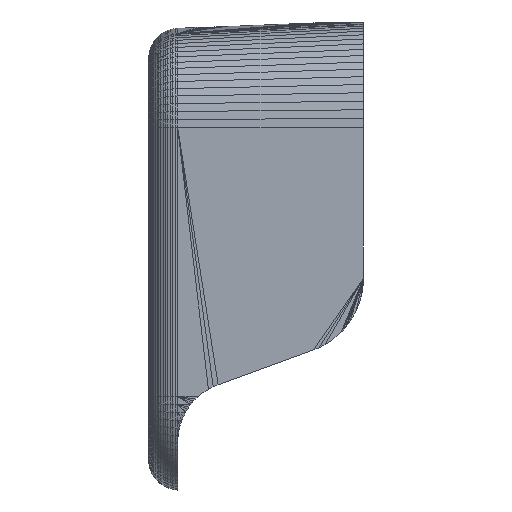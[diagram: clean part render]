
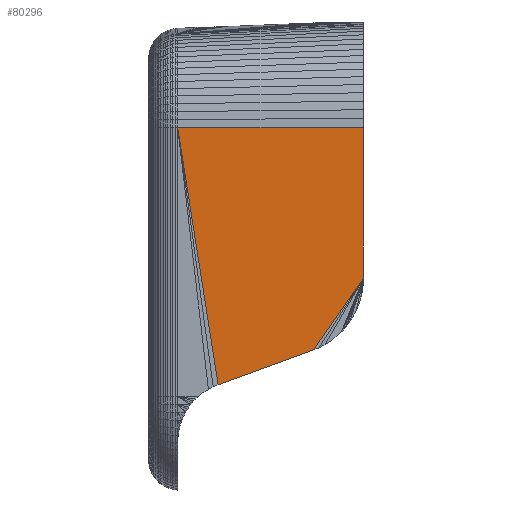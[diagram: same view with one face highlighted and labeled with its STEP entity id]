
A CAD part, front view. The second image highlights one B-rep face of the part: STEP entity #80296.
In plain terms, the highlighted planar face has unit normal (-0.052, -0.999, 0).
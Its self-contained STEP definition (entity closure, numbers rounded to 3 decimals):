
#316 = DIRECTION ( 'NONE',  ( -0.939, 0.049, -0.342 ) ) ;
#4162 = LINE ( 'NONE', #38374, #37072 ) ;
#7854 = ORIENTED_EDGE ( 'NONE', *, *, #99668, .F. ) ;
#9208 = EDGE_CURVE ( 'NONE', #12284, #105392, #103618, .T. ) ;
#9255 = ORIENTED_EDGE ( 'NONE', *, *, #9208, .T. ) ;
#12284 = VERTEX_POINT ( 'NONE', #16062 ) ;
#16062 = CARTESIAN_POINT ( 'NONE',  ( -49.08, -13.123, 6.015 ) ) ;
#17094 = DIRECTION ( 'NONE',  ( -0.052, -0.999, 0. ) ) ;
#17999 = VECTOR ( 'NONE', #49584, 1000. ) ;
#19276 = DIRECTION ( 'NONE',  ( -0.999, 0.052, 0. ) ) ;
#19384 = CARTESIAN_POINT ( 'NONE',  ( -49.08, -13.123, 6.015 ) ) ;
#20428 = CARTESIAN_POINT ( 'NONE',  ( -42.5, -13.467, 35.065 ) ) ;
#21928 = CARTESIAN_POINT ( 'NONE',  ( -42.5, -13.467, 35.065 ) ) ;
#25445 = VECTOR ( 'NONE', #85634, 1000. ) ;
#27529 = LINE ( 'NONE', #19384, #69891 ) ;
#32773 = EDGE_CURVE ( 'NONE', #55385, #67425, #64548, .T. ) ;
#35066 = DIRECTION ( 'NONE',  ( 0.999, -0.052, 0. ) ) ;
#37072 = VECTOR ( 'NONE', #83060, 1000. ) ;
#37802 = CARTESIAN_POINT ( 'NONE',  ( -61.436, -12.475, 1.518 ) ) ;
#38374 = CARTESIAN_POINT ( 'NONE',  ( -61.436, -12.475, 1.518 ) ) ;
#45893 = VECTOR ( 'NONE', #19276, 1000. ) ;
#49584 = DIRECTION ( 'NONE',  ( 0., 0., -1. ) ) ;
#50755 = ORIENTED_EDGE ( 'NONE', *, *, #72907, .F. ) ;
#53267 = EDGE_LOOP ( 'NONE', ( #65180, #58229, #7854, #9255, #50755 ) ) ;
#55385 = VERTEX_POINT ( 'NONE', #21928 ) ;
#58229 = ORIENTED_EDGE ( 'NONE', *, *, #61910, .F. ) ;
#61910 = EDGE_CURVE ( 'NONE', #103171, #67425, #4162, .T. ) ;
#64548 = LINE ( 'NONE', #20428, #45893 ) ;
#65180 = ORIENTED_EDGE ( 'NONE', *, *, #32773, .T. ) ;
#67425 = VERTEX_POINT ( 'NONE', #88130 ) ;
#68234 = CARTESIAN_POINT ( 'NONE',  ( -49.08, -13.123, 6.015 ) ) ;
#69891 = VECTOR ( 'NONE', #316, 1000. ) ;
#72907 = EDGE_CURVE ( 'NONE', #55385, #105392, #101213, .T. ) ;
#80296 = ADVANCED_FACE ( 'NONE', ( #85611 ), #114574, .T. ) ;
#83060 = DIRECTION ( 'NONE',  ( -0.155, 0.008, 0.988 ) ) ;
#85611 = FACE_OUTER_BOUND ( 'NONE', #53267, .T. ) ;
#85634 = DIRECTION ( 'NONE',  ( 0.573, -0.03, 0.819 ) ) ;
#88130 = CARTESIAN_POINT ( 'NONE',  ( -66.709, -12.199, 35.065 ) ) ;
#95576 = AXIS2_PLACEMENT_3D ( 'NONE', #97158, #17094, #35066 ) ;
#97158 = CARTESIAN_POINT ( 'NONE',  ( -42.5, -13.467, 15.412 ) ) ;
#99668 = EDGE_CURVE ( 'NONE', #12284, #103171, #27529, .T. ) ;
#101213 = LINE ( 'NONE', #110495, #17999 ) ;
#103171 = VERTEX_POINT ( 'NONE', #37802 ) ;
#103618 = LINE ( 'NONE', #68234, #25445 ) ;
#105392 = VERTEX_POINT ( 'NONE', #113526 ) ;
#110495 = CARTESIAN_POINT ( 'NONE',  ( -42.5, -13.467, 35.065 ) ) ;
#113526 = CARTESIAN_POINT ( 'NONE',  ( -42.5, -13.467, 15.412 ) ) ;
#114574 = PLANE ( 'NONE',  #95576 ) ;
